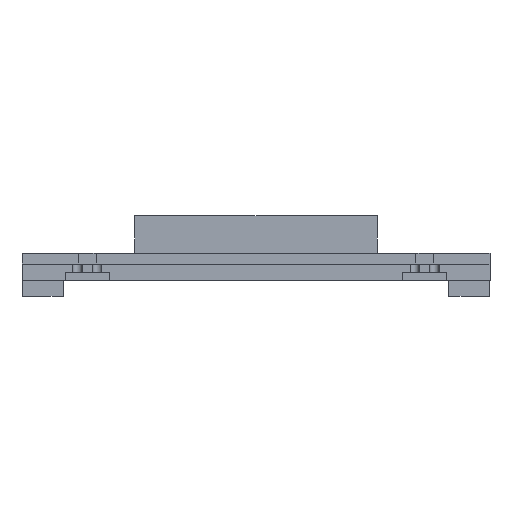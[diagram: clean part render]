
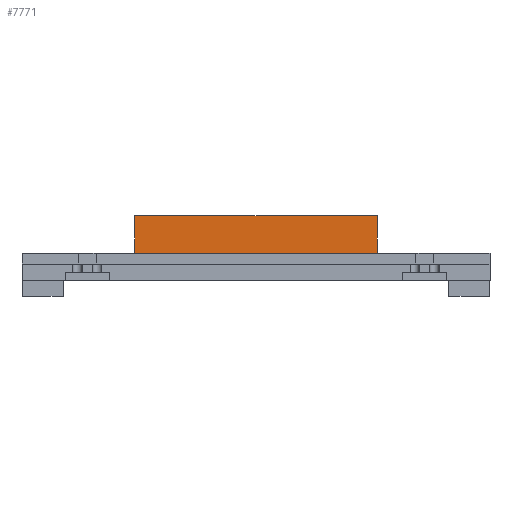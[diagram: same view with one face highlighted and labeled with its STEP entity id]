
A CAD part, left-side view. The second image highlights one B-rep face of the part: STEP entity #7771.
In plain terms, the highlighted planar face has unit normal (-1, 0, 0).
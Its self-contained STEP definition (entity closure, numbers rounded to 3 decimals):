
#44 = PLANE('',#45);
#45 = AXIS2_PLACEMENT_3D('',#46,#47,#48);
#46 = CARTESIAN_POINT('',(0.,-86.75,10.));
#47 = DIRECTION('',(0.,0.,1.));
#48 = DIRECTION('',(1.,0.,-0.));
#7177 = VERTEX_POINT('',#7178);
#7178 = CARTESIAN_POINT('',(35.,-45.,10.));
#7191 = PLANE('',#7192);
#7192 = AXIS2_PLACEMENT_3D('',#7193,#7194,#7195);
#7193 = CARTESIAN_POINT('',(35.,-45.,9.5));
#7194 = DIRECTION('',(-0.,1.,0.));
#7195 = DIRECTION('',(0.,0.,1.));
#7202 = EDGE_CURVE('',#7177,#7203,#7205,.T.);
#7203 = VERTEX_POINT('',#7204);
#7204 = CARTESIAN_POINT('',(35.,45.,10.));
#7205 = SURFACE_CURVE('',#7206,(#7210,#7216),.PCURVE_S1.);
#7206 = LINE('',#7207,#7208);
#7207 = CARTESIAN_POINT('',(35.,-65.875,10.));
#7208 = VECTOR('',#7209,1.);
#7209 = DIRECTION('',(-0.,1.,0.));
#7210 = PCURVE('',#44,#7211);
#7211 = DEFINITIONAL_REPRESENTATION('',(#7212),#7215);
#7212 = B_SPLINE_CURVE_WITH_KNOTS('',1,(#7213,#7214),.UNSPECIFIED.,.F.,
  .F.,(2,2),(20.875,110.875),.PIECEWISE_BEZIER_KNOTS.);
#7213 = CARTESIAN_POINT('',(35.,41.75));
#7214 = CARTESIAN_POINT('',(35.,131.75));
#7215 = ( GEOMETRIC_REPRESENTATION_CONTEXT(2) 
PARAMETRIC_REPRESENTATION_CONTEXT() REPRESENTATION_CONTEXT('2D SPACE',''
  ) );
#7216 = PCURVE('',#7217,#7222);
#7217 = PLANE('',#7218);
#7218 = AXIS2_PLACEMENT_3D('',#7219,#7220,#7221);
#7219 = CARTESIAN_POINT('',(35.,-45.,9.5));
#7220 = DIRECTION('',(1.,0.,-0.));
#7221 = DIRECTION('',(0.,0.,1.));
#7222 = DEFINITIONAL_REPRESENTATION('',(#7223),#7226);
#7223 = B_SPLINE_CURVE_WITH_KNOTS('',1,(#7224,#7225),.UNSPECIFIED.,.F.,
  .F.,(2,2),(20.875,110.875),.PIECEWISE_BEZIER_KNOTS.);
#7224 = CARTESIAN_POINT('',(0.5,0.));
#7225 = CARTESIAN_POINT('',(0.5,-90.));
#7226 = ( GEOMETRIC_REPRESENTATION_CONTEXT(2) 
PARAMETRIC_REPRESENTATION_CONTEXT() REPRESENTATION_CONTEXT('2D SPACE',''
  ) );
#7243 = PLANE('',#7244);
#7244 = AXIS2_PLACEMENT_3D('',#7245,#7246,#7247);
#7245 = CARTESIAN_POINT('',(35.,45.,9.5));
#7246 = DIRECTION('',(-0.,1.,0.));
#7247 = DIRECTION('',(0.,0.,1.));
#7662 = PLANE('',#7663);
#7663 = AXIS2_PLACEMENT_3D('',#7664,#7665,#7666);
#7664 = CARTESIAN_POINT('',(35.,-45.,24.));
#7665 = DIRECTION('',(0.,0.,1.));
#7666 = DIRECTION('',(1.,0.,-0.));
#7677 = EDGE_CURVE('',#7678,#7680,#7682,.T.);
#7678 = VERTEX_POINT('',#7679);
#7679 = CARTESIAN_POINT('',(35.,-45.,24.));
#7680 = VERTEX_POINT('',#7681);
#7681 = CARTESIAN_POINT('',(35.,45.,24.));
#7682 = SURFACE_CURVE('',#7683,(#7687,#7694),.PCURVE_S1.);
#7683 = LINE('',#7684,#7685);
#7684 = CARTESIAN_POINT('',(35.,-45.,24.));
#7685 = VECTOR('',#7686,1.);
#7686 = DIRECTION('',(-0.,1.,0.));
#7687 = PCURVE('',#7662,#7688);
#7688 = DEFINITIONAL_REPRESENTATION('',(#7689),#7693);
#7689 = LINE('',#7690,#7691);
#7690 = CARTESIAN_POINT('',(0.,0.));
#7691 = VECTOR('',#7692,1.);
#7692 = DIRECTION('',(0.,1.));
#7693 = ( GEOMETRIC_REPRESENTATION_CONTEXT(2) 
PARAMETRIC_REPRESENTATION_CONTEXT() REPRESENTATION_CONTEXT('2D SPACE',''
  ) );
#7694 = PCURVE('',#7217,#7695);
#7695 = DEFINITIONAL_REPRESENTATION('',(#7696),#7700);
#7696 = LINE('',#7697,#7698);
#7697 = CARTESIAN_POINT('',(14.5,0.));
#7698 = VECTOR('',#7699,1.);
#7699 = DIRECTION('',(0.,-1.));
#7700 = ( GEOMETRIC_REPRESENTATION_CONTEXT(2) 
PARAMETRIC_REPRESENTATION_CONTEXT() REPRESENTATION_CONTEXT('2D SPACE',''
  ) );
#7750 = EDGE_CURVE('',#7203,#7680,#7751,.T.);
#7751 = SURFACE_CURVE('',#7752,(#7756,#7763),.PCURVE_S1.);
#7752 = LINE('',#7753,#7754);
#7753 = CARTESIAN_POINT('',(35.,45.,9.5));
#7754 = VECTOR('',#7755,1.);
#7755 = DIRECTION('',(0.,0.,1.));
#7756 = PCURVE('',#7243,#7757);
#7757 = DEFINITIONAL_REPRESENTATION('',(#7758),#7762);
#7758 = LINE('',#7759,#7760);
#7759 = CARTESIAN_POINT('',(0.,0.));
#7760 = VECTOR('',#7761,1.);
#7761 = DIRECTION('',(1.,0.));
#7762 = ( GEOMETRIC_REPRESENTATION_CONTEXT(2) 
PARAMETRIC_REPRESENTATION_CONTEXT() REPRESENTATION_CONTEXT('2D SPACE',''
  ) );
#7763 = PCURVE('',#7217,#7764);
#7764 = DEFINITIONAL_REPRESENTATION('',(#7765),#7769);
#7765 = LINE('',#7766,#7767);
#7766 = CARTESIAN_POINT('',(0.,-90.));
#7767 = VECTOR('',#7768,1.);
#7768 = DIRECTION('',(1.,0.));
#7769 = ( GEOMETRIC_REPRESENTATION_CONTEXT(2) 
PARAMETRIC_REPRESENTATION_CONTEXT() REPRESENTATION_CONTEXT('2D SPACE',''
  ) );
#7771 = ADVANCED_FACE('',(#7772),#7217,.F.);
#7772 = FACE_BOUND('',#7773,.F.);
#7773 = EDGE_LOOP('',(#7774,#7795,#7796,#7797));
#7774 = ORIENTED_EDGE('',*,*,#7775,.F.);
#7775 = EDGE_CURVE('',#7177,#7678,#7776,.T.);
#7776 = SURFACE_CURVE('',#7777,(#7781,#7788),.PCURVE_S1.);
#7777 = LINE('',#7778,#7779);
#7778 = CARTESIAN_POINT('',(35.,-45.,9.5));
#7779 = VECTOR('',#7780,1.);
#7780 = DIRECTION('',(0.,0.,1.));
#7781 = PCURVE('',#7217,#7782);
#7782 = DEFINITIONAL_REPRESENTATION('',(#7783),#7787);
#7783 = LINE('',#7784,#7785);
#7784 = CARTESIAN_POINT('',(0.,0.));
#7785 = VECTOR('',#7786,1.);
#7786 = DIRECTION('',(1.,0.));
#7787 = ( GEOMETRIC_REPRESENTATION_CONTEXT(2) 
PARAMETRIC_REPRESENTATION_CONTEXT() REPRESENTATION_CONTEXT('2D SPACE',''
  ) );
#7788 = PCURVE('',#7191,#7789);
#7789 = DEFINITIONAL_REPRESENTATION('',(#7790),#7794);
#7790 = LINE('',#7791,#7792);
#7791 = CARTESIAN_POINT('',(0.,0.));
#7792 = VECTOR('',#7793,1.);
#7793 = DIRECTION('',(1.,0.));
#7794 = ( GEOMETRIC_REPRESENTATION_CONTEXT(2) 
PARAMETRIC_REPRESENTATION_CONTEXT() REPRESENTATION_CONTEXT('2D SPACE',''
  ) );
#7795 = ORIENTED_EDGE('',*,*,#7202,.T.);
#7796 = ORIENTED_EDGE('',*,*,#7750,.T.);
#7797 = ORIENTED_EDGE('',*,*,#7677,.F.);
